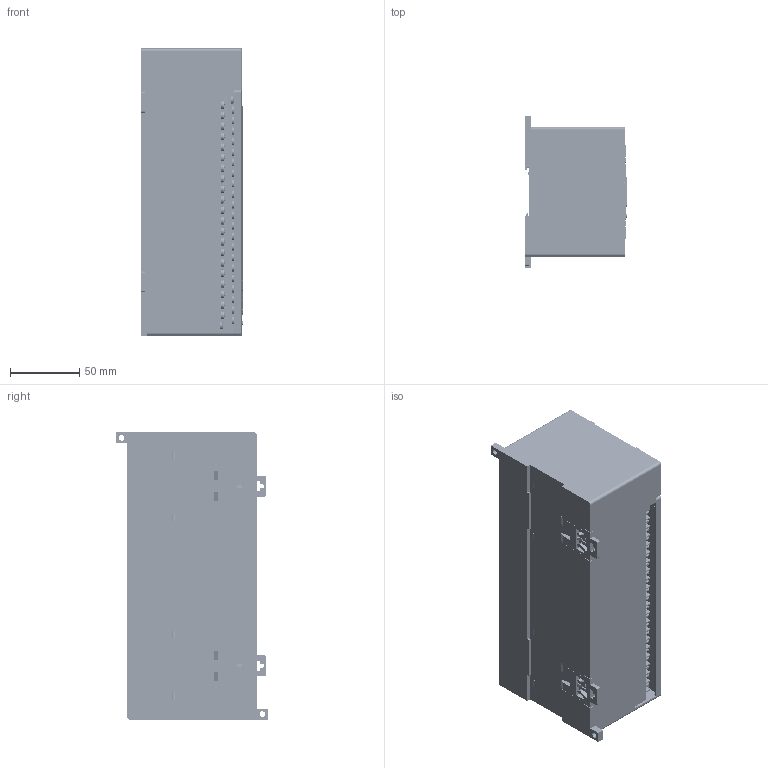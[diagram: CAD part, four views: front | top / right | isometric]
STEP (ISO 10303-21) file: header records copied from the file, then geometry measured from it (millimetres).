
FILE_DESCRIPTION (( 'STEP AP214' ), '1' );
FILE_NAME ('3D ìîäåëü ÏËÊ160.STEP', '2015-10-13T11:24:59', ( 'adm' ), ( 'owen' ), 'SwSTEP 2.0', 'SolidWorks 2013', '' );
FILE_SCHEMA (( 'AUTOMOTIVE_DESIGN' ));
Length unit declared in the file: millimetre
Products named in the file (13): Øàéáà êâàäðàòíàÿ Ì3; pan head cross recess screw_iso Ì3õ20_ISO 7045 - M3 x 10 - Z --- 10N; Êëåììíàÿ êîëîäêà; Êîðïóñ ÏËÊ160; Ethernet; PLC160_001FA02M; 3D ìîäåëü ÏËÊ160; Êðûøêà ïðîçðà÷íàÿ; RS232; USB ðîçåòêà; pan head cross recess screw_iso Ì3õ20_ISO 7045 - M3 x 20 - Z --- 20N; Ñáîðêà êëåììíàÿ êîëîäêà; 婰膲僗闉
Assembly tree (99 placements, depth 3):
  3D ìîäåëü ÏËÊ160
    RS232  x2
    婰膲僗闉  x2
    Ñáîðêà êëåììíàÿ êîëîäêà  x2
      Øàéáà êâàäðàòíàÿ Ì3
      pan head cross recess screw_iso Ì3õ20_ISO 7045 - M3 x 10 - Z --- 10N
      pan head cross recess screw_iso Ì3õ20_ISO 7045 - M3 x 20 - Z --- 20N
      Êëåììíàÿ êîëîäêà
    Êðûøêà ïðîçðà÷íàÿ  x2
    PLC160_001FA02M
    USB ðîçåòêà
    Ethernet
    Êîðïóñ ÏËÊ160
Bounding box: 74.5 x 110 x 208 mm (x, y, z)
Volume: 1331795.4 mm3; surface area: 213768.7 mm2
Topology: 186 solids, 186 shells, 8551 faces, 21189 edges, 13288 vertices
Faces by surface type: plane 5017, cylinder 1376, cone 968, bspline 662, torus 352, sphere 176
Entity records: 175873 total; most frequent: CARTESIAN_POINT 68680, ORIENTED_EDGE 17886, DIRECTION 13573, EDGE_CURVE 8943, VERTEX_POINT 5935, VECTOR 5599, LINE 5599, AXIS2_PLACEMENT_3D 3987
